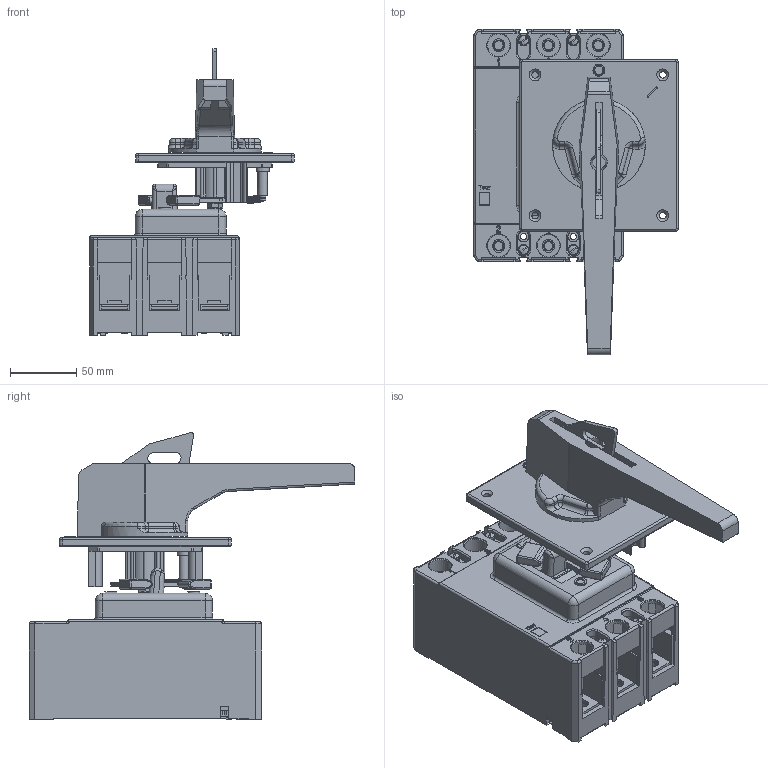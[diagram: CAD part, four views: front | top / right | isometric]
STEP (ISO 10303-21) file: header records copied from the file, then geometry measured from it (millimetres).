
FILE_DESCRIPTION (( 'STEP AP203' ), '1' );
FILE_NAME ('ÂÀ04-36 ñ ÐÄÏ.STEP', '2020-12-11T08:22:18', ( '' ), ( '' ), 'SwSTEP 2.0', 'SolidWorks 2018', '' );
FILE_SCHEMA (( 'CONFIG_CONTROL_DESIGN' ));
Length unit declared in the file: millimetre
Products named in the file (1): ÂÀ04-36 ñ ÐÄÏ
Bounding box: 153.97 x 245.3 x 215.98 mm (x, y, z)
Volume: 1637486.3 mm3; surface area: 233371 mm2
Topology: 2 solids, 6 shells, 1946 faces, 5104 edges, 3222 vertices
Faces by surface type: plane 1057, cylinder 563, torus 143, bspline 94, sphere 52, cone 37
Full cylindrical faces by diameter (mm): 0.6 x4, 3.1 x1, 4 x14, 4.5 x4, 4.8 x2, 4.9 x4, 5 x1, 6.09 x1, 6.6 x4, 6.65 x6, 7 x4, 7.2 x4, 7.4 x1, 8 x4, 8.2 x4, 8.31 x2, 9 x1, 9.5 x1, 10.1 x1, 14.8 x1, 17 x6, 18 x6, 29.435 x1
Entity records: 65963 total; most frequent: CARTESIAN_POINT 18839, ORIENTED_EDGE 9818, DIRECTION 9662, EDGE_CURVE 4909, AXIS2_PLACEMENT_3D 3234, LINE 3194, VECTOR 3194, VERTEX_POINT 3160
